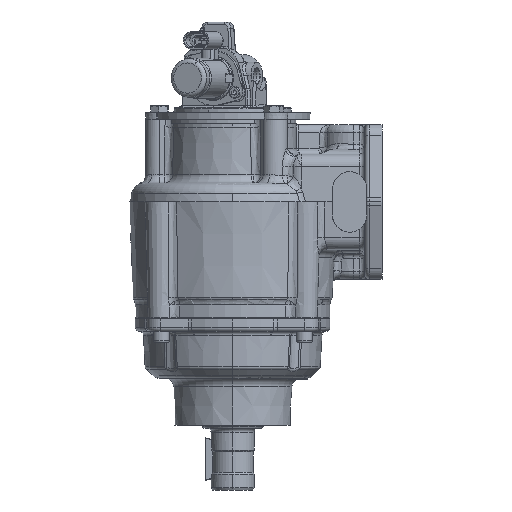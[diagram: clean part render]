
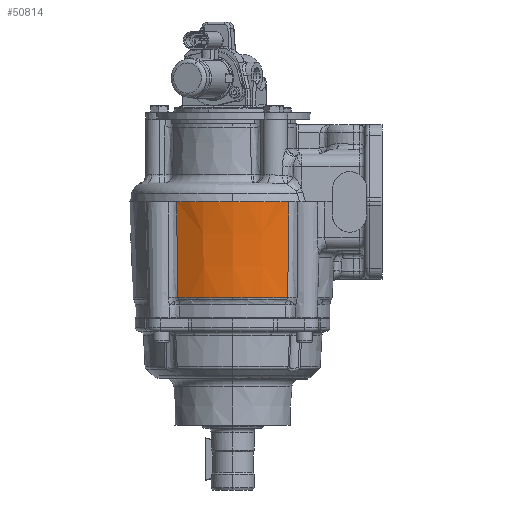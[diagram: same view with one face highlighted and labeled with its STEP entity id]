
A CAD part, left-side view. The second image highlights one B-rep face of the part: STEP entity #50814.
In plain terms, the highlighted conical face has half-angle 1.909 degrees and reference radius 76.073 mm.
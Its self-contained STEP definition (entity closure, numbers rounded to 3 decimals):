
#4422 = EDGE_CURVE ( 'NONE', #30060, #87283, #5089, .T. ) ;
#5089 = CIRCLE ( 'NONE', #138986, 73.72 ) ;
#6414 = CARTESIAN_POINT ( 'NONE',  ( -98.32, 89.405, -70.591 ) ) ;
#10720 = CARTESIAN_POINT ( 'NONE',  ( -24.6, 89.405, 0. ) ) ;
#11577 = DIRECTION ( 'NONE',  ( -1., 0., 0. ) ) ;
#14342 = VERTEX_POINT ( 'NONE', #40360 ) ;
#14729 = CARTESIAN_POINT ( 'NONE',  ( -88.467, 48.076, 0. ) ) ;
#15903 = EDGE_CURVE ( 'NONE', #14342, #87283, #53238, .T. ) ;
#20594 = CARTESIAN_POINT ( 'NONE',  ( -87.685, 130.499, -23.531 ) ) ;
#28914 = ORIENTED_EDGE ( 'NONE', *, *, #65275, .T. ) ;
#30060 = VERTEX_POINT ( 'NONE', #6414 ) ;
#30501 = ORIENTED_EDGE ( 'NONE', *, *, #137016, .T. ) ;
#31592 = AXIS2_PLACEMENT_3D ( 'NONE', #135348, #168176, #57611 ) ;
#40360 = CARTESIAN_POINT ( 'NONE',  ( -88.467, 130.735, 0. ) ) ;
#41146 = ORIENTED_EDGE ( 'NONE', *, *, #81654, .F. ) ;
#42518 = CIRCLE ( 'NONE', #94742, 73.72 ) ;
#43626 = AXIS2_PLACEMENT_3D ( 'NONE', #55402, #102445, #117769 ) ;
#44432 = CARTESIAN_POINT ( 'NONE',  ( -87.685, 48.311, -23.531 ) ) ;
#50003 = AXIS2_PLACEMENT_3D ( 'NONE', #10720, #122088, #92444 ) ;
#50814 = ADVANCED_FACE ( 'NONE', ( #196977 ), #200369, .T. ) ;
#53238 = B_SPLINE_CURVE_WITH_KNOTS ( 'NONE', 3,
 ( #197312, #20594, #198341, #70306 ),
 .UNSPECIFIED., .F., .F.,
 ( 4, 4 ),
 ( 0., 0.071 ),
 .UNSPECIFIED. ) ;
#55402 = CARTESIAN_POINT ( 'NONE',  ( -24.6, 89.405, 0. ) ) ;
#57611 = DIRECTION ( 'NONE',  ( -1., 0., 0. ) ) ;
#65275 = EDGE_CURVE ( 'NONE', #89408, #101553, #111531, .T. ) ;
#70306 = CARTESIAN_POINT ( 'NONE',  ( -86.075, 130.092, -70.591 ) ) ;
#70371 = EDGE_CURVE ( 'NONE', #138103, #14342, #198232, .T. ) ;
#71830 = CARTESIAN_POINT ( 'NONE',  ( -24.6, 89.405, -70.591 ) ) ;
#74108 = DIRECTION ( 'NONE',  ( -1., 0., 0. ) ) ;
#78076 = CARTESIAN_POINT ( 'NONE',  ( -86.075, 48.718, -70.591 ) ) ;
#81654 = EDGE_CURVE ( 'NONE', #89408, #30060, #42518, .T. ) ;
#87283 = VERTEX_POINT ( 'NONE', #180594 ) ;
#89408 = VERTEX_POINT ( 'NONE', #132917 ) ;
#92444 = DIRECTION ( 'NONE',  ( 1., 0., 0. ) ) ;
#94742 = AXIS2_PLACEMENT_3D ( 'NONE', #71830, #181501, #11577 ) ;
#101553 = VERTEX_POINT ( 'NONE', #113702 ) ;
#102445 = DIRECTION ( 'NONE',  ( 0., 0., -1. ) ) ;
#104139 = ORIENTED_EDGE ( 'NONE', *, *, #4422, .F. ) ;
#105653 = CIRCLE ( 'NONE', #43626, 76.073 ) ;
#111531 = B_SPLINE_CURVE_WITH_KNOTS ( 'NONE', 3,
 ( #78076, #137468, #44432, #14729 ),
 .UNSPECIFIED., .F., .F.,
 ( 4, 4 ),
 ( 0., 0.071 ),
 .UNSPECIFIED. ) ;
#113702 = CARTESIAN_POINT ( 'NONE',  ( -88.467, 48.076, 0. ) ) ;
#115673 = CARTESIAN_POINT ( 'NONE',  ( -100.673, 89.405, 0. ) ) ;
#117769 = DIRECTION ( 'NONE',  ( -1., 0., 0. ) ) ;
#122088 = DIRECTION ( 'NONE',  ( 0., 0., 1. ) ) ;
#131927 = EDGE_LOOP ( 'NONE', ( #41146, #28914, #30501, #191973, #141973, #104139 ) ) ;
#132917 = CARTESIAN_POINT ( 'NONE',  ( -86.075, 48.718, -70.591 ) ) ;
#135348 = CARTESIAN_POINT ( 'NONE',  ( -24.6, 89.405, 0. ) ) ;
#137016 = EDGE_CURVE ( 'NONE', #101553, #138103, #105653, .T. ) ;
#137468 = CARTESIAN_POINT ( 'NONE',  ( -86.889, 48.526, -47.061 ) ) ;
#138103 = VERTEX_POINT ( 'NONE', #115673 ) ;
#138986 = AXIS2_PLACEMENT_3D ( 'NONE', #166367, #155041, #74108 ) ;
#141973 = ORIENTED_EDGE ( 'NONE', *, *, #15903, .T. ) ;
#155041 = DIRECTION ( 'NONE',  ( 0., 0., -1. ) ) ;
#166367 = CARTESIAN_POINT ( 'NONE',  ( -24.6, 89.405, -70.591 ) ) ;
#168176 = DIRECTION ( 'NONE',  ( 0., 0., -1. ) ) ;
#180594 = CARTESIAN_POINT ( 'NONE',  ( -86.075, 130.092, -70.591 ) ) ;
#181501 = DIRECTION ( 'NONE',  ( 0., 0., -1. ) ) ;
#191973 = ORIENTED_EDGE ( 'NONE', *, *, #70371, .T. ) ;
#196977 = FACE_OUTER_BOUND ( 'NONE', #131927, .T. ) ;
#197312 = CARTESIAN_POINT ( 'NONE',  ( -88.467, 130.735, 0. ) ) ;
#198232 = CIRCLE ( 'NONE', #31592, 76.073 ) ;
#198341 = CARTESIAN_POINT ( 'NONE',  ( -86.889, 130.284, -47.061 ) ) ;
#200369 = CONICAL_SURFACE ( 'NONE', #50003, 76.073, 0.033 ) ;
